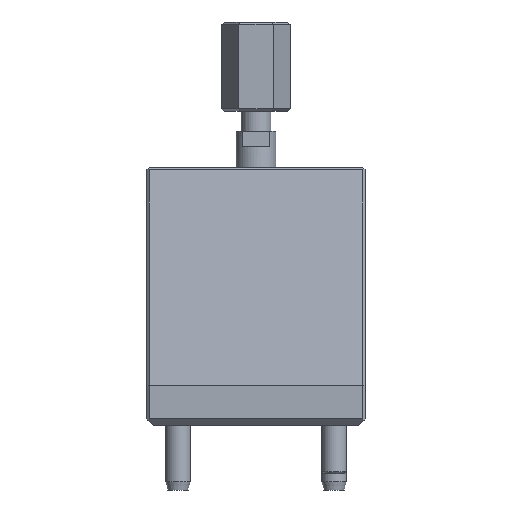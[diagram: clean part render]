
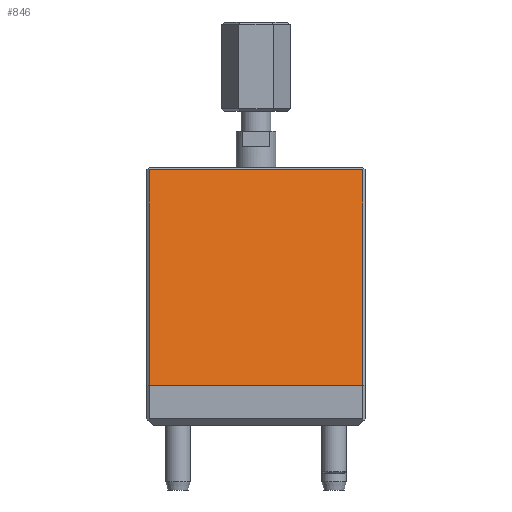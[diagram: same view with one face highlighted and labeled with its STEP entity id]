
A CAD part, left-side view. The second image highlights one B-rep face of the part: STEP entity #846.
In plain terms, the highlighted planar face has unit normal (-0.985, 0, 0.174).
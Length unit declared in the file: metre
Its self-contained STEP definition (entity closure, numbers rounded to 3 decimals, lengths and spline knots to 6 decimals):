
#846=ADVANCED_FACE('',(#1800),#1801,.T.);
#1800=FACE_OUTER_BOUND('',#3419,.T.);
#1801=PLANE('',#3420);
#3419=EDGE_LOOP('',(#13325,#13326,#13327,#13328));
#3420=AXIS2_PLACEMENT_3D('',#13329,#13330,#13331);
#13325=ORIENTED_EDGE('',*,*,#14969,.F.);
#13326=ORIENTED_EDGE('',*,*,#14970,.T.);
#13327=ORIENTED_EDGE('',*,*,#14971,.F.);
#13328=ORIENTED_EDGE('',*,*,#14972,.F.);
#13329=CARTESIAN_POINT('',(-0.046411,0.0,0.08255));
#13330=DIRECTION('',(-0.985,0.0,0.174));
#13331=DIRECTION('',(0.174,0.0,0.985));
#14969=EDGE_CURVE('',#15731,#15732,#15733,.T.);
#14970=EDGE_CURVE('',#15731,#15734,#15735,.T.);
#14971=EDGE_CURVE('',#15736,#15734,#15737,.T.);
#14972=EDGE_CURVE('',#15732,#15736,#15738,.T.);
#15731=VERTEX_POINT('',#16770);
#15732=VERTEX_POINT('',#16771);
#15733=LINE('',#16772,#16773);
#15734=VERTEX_POINT('',#16774);
#15735=LINE('',#16775,#16776);
#15736=VERTEX_POINT('',#16777);
#15737=LINE('',#16778,#16779);
#15738=LINE('',#16780,#16781);
#16770=CARTESIAN_POINT('',(-0.058738,0.034163,0.012645));
#16771=CARTESIAN_POINT('',(-0.046544,0.034163,0.0818));
#16772=CARTESIAN_POINT('',(-0.046411,0.034163,0.08255));
#16773=VECTOR('',#20048,1.0);
#16774=CARTESIAN_POINT('',(-0.058738,-0.034163,0.012645));
#16775=CARTESIAN_POINT('',(-0.058738,-0.03175,0.012645));
#16776=VECTOR('',#20049,1.0);
#16777=CARTESIAN_POINT('',(-0.046544,-0.034163,0.0818));
#16778=CARTESIAN_POINT('',(-0.046411,-0.034163,0.08255));
#16779=VECTOR('',#20050,1.0);
#16780=CARTESIAN_POINT('',(-0.046544,0.0,0.0818));
#16781=VECTOR('',#20051,1.0);
#20048=DIRECTION('',(0.174,0.0,0.985));
#20049=DIRECTION('',(0.0,-1.0,0.0));
#20050=DIRECTION('',(-0.174,-0.0,-0.985));
#20051=DIRECTION('',(0.0,-1.0,0.0));
